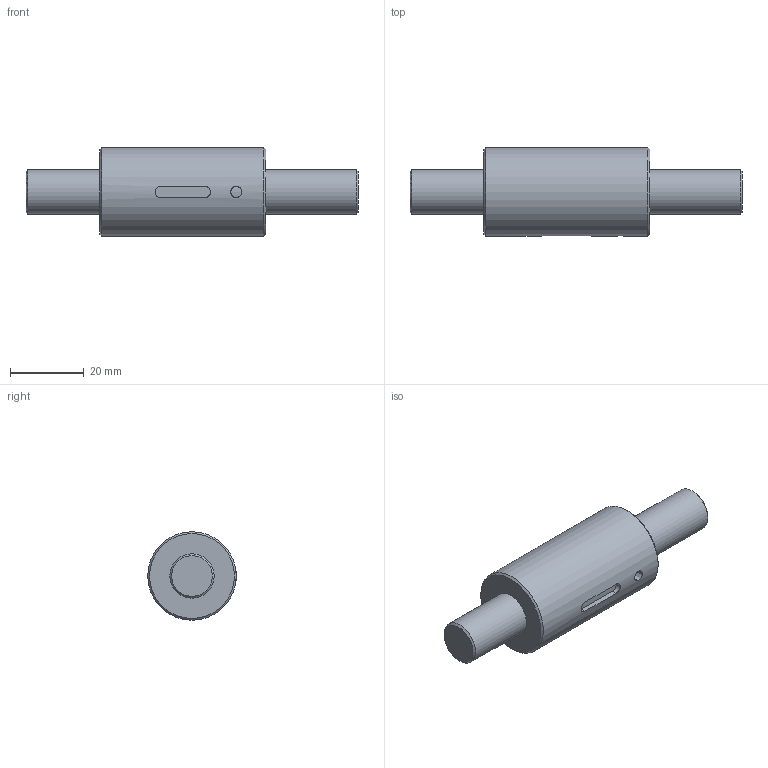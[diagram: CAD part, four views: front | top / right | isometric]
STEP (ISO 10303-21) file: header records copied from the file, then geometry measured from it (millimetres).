
FILE_DESCRIPTION(/* description */ (''),/* implementation_level */ '2;1');
FILE_NAME(/* name */ 'SCNH1210.stp',/* time_stamp */ '2016-07-18T11:08:33+08:00',/* author */ (''),/* organization */ (''),/* preprocessor_version */ 'ST-DEVELOPER v11',/* originating_system */ 'SIEMENS UGS NX 6.0',/* authorisation */ '');
FILE_SCHEMA (('CONFIG_CONTROL_DESIGN'));
Length unit declared in the file: millimetre
Products named in the file (1): didi6F95hpg7
Bounding box: 90 x 24 x 24 mm (x, y, z)
Volume: 25313.2 mm3; surface area: 9409.6 mm2
Topology: 2 solids, 2 shells, 18 faces, 35 edges, 22 vertices
Faces by surface type: plane 7, cylinder 5, cone 4, extrusion 2
Full cylindrical faces by diameter (mm): 12 x2, 24 x1
Entity records: 735 total; most frequent: CARTESIAN_POINT 300, DIRECTION 70, ORIENTED_EDGE 56, EDGE_LOOP 30, AXIS2_PLACEMENT_3D 29, EDGE_CURVE 28, VERTEX_POINT 22, FACE_BOUND 21
